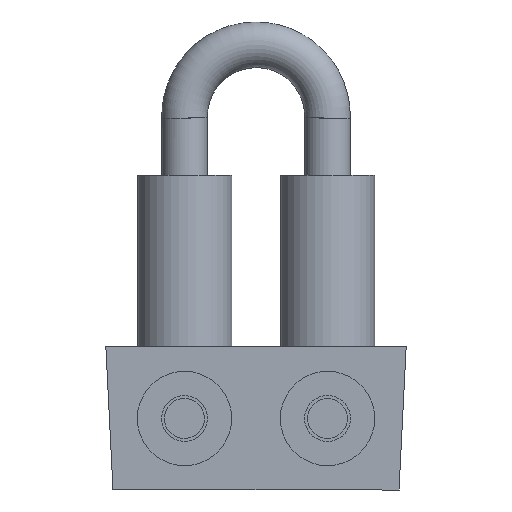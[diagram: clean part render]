
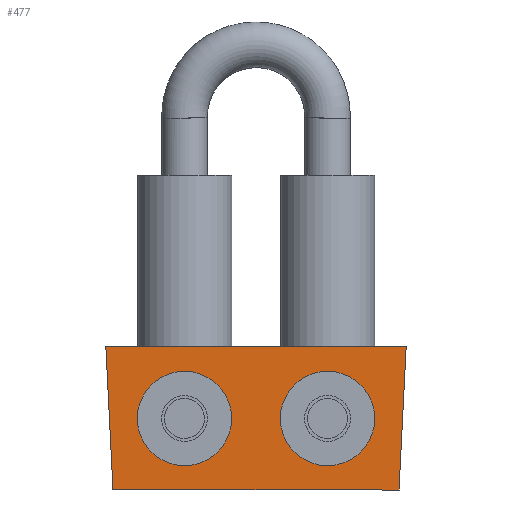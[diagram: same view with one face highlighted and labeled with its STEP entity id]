
A CAD part, front view. The second image highlights one B-rep face of the part: STEP entity #477.
In plain terms, the highlighted planar face has unit normal (0, -1, 0) as drawn and (0, 0, 1) by its records, which use the part's own axes.
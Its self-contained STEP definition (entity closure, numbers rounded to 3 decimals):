
#89=FACE_BOUND('',#180,.T.);
#90=FACE_BOUND('',#181,.T.);
#113=CIRCLE('',#621,8.);
#114=CIRCLE('',#622,8.);
#145=FACE_OUTER_BOUND('',#179,.T.);
#179=EDGE_LOOP('',(#369,#370,#371,#372));
#180=EDGE_LOOP('',(#373));
#181=EDGE_LOOP('',(#374));
#235=LINE('',#884,#247);
#240=LINE('',#894,#252);
#242=LINE('',#898,#254);
#244=LINE('',#901,#256);
#247=VECTOR('',#705,10.);
#252=VECTOR('',#714,10.);
#254=VECTOR('',#718,10.);
#256=VECTOR('',#722,10.);
#259=VERTEX_POINT('',#881);
#260=VERTEX_POINT('',#883);
#263=VERTEX_POINT('',#893);
#264=VERTEX_POINT('',#897);
#265=VERTEX_POINT('',#902);
#266=VERTEX_POINT('',#904);
#303=EDGE_CURVE('',#260,#259,#235,.T.);
#308=EDGE_CURVE('',#260,#263,#240,.T.);
#310=EDGE_CURVE('',#264,#263,#242,.T.);
#312=EDGE_CURVE('',#264,#259,#244,.T.);
#313=EDGE_CURVE('',#265,#265,#113,.T.);
#314=EDGE_CURVE('',#266,#266,#114,.T.);
#369=ORIENTED_EDGE('',*,*,#303,.T.);
#370=ORIENTED_EDGE('',*,*,#312,.F.);
#371=ORIENTED_EDGE('',*,*,#310,.T.);
#372=ORIENTED_EDGE('',*,*,#308,.F.);
#373=ORIENTED_EDGE('',*,*,#313,.T.);
#374=ORIENTED_EDGE('',*,*,#314,.T.);
#461=PLANE('',#620);
#477=ADVANCED_FACE('',(#145,#89,#90),#461,.T.);
#620=AXIS2_PLACEMENT_3D('',#900,#720,#721);
#621=AXIS2_PLACEMENT_3D('',#903,#723,#724);
#622=AXIS2_PLACEMENT_3D('',#905,#725,#726);
#705=DIRECTION('',(-0.999,0.05,0.));
#714=DIRECTION('',(0.,-1.,0.));
#718=DIRECTION('',(0.999,0.05,0.));
#720=DIRECTION('center_axis',(0.,0.,1.));
#721=DIRECTION('ref_axis',(0.,-1.,0.));
#722=DIRECTION('',(0.,1.,0.));
#723=DIRECTION('center_axis',(0.,0.,-1.));
#724=DIRECTION('ref_axis',(-1.,0.,0.));
#725=DIRECTION('center_axis',(0.,0.,-1.));
#726=DIRECTION('ref_axis',(-1.,0.,0.));
#881=CARTESIAN_POINT('',(0.,105.,0.));
#883=CARTESIAN_POINT('',(50.,102.5,0.));
#884=CARTESIAN_POINT('',(0.,105.,0.));
#893=CARTESIAN_POINT('',(50.,2.5,0.));
#894=CARTESIAN_POINT('',(50.,0.,0.));
#897=CARTESIAN_POINT('',(0.,0.,0.));
#898=CARTESIAN_POINT('',(2.618,0.131,0.));
#900=CARTESIAN_POINT('Origin',(0.,105.,0.));
#901=CARTESIAN_POINT('',(0.,0.,0.));
#902=CARTESIAN_POINT('',(33.,77.5,0.));
#903=CARTESIAN_POINT('Origin',(25.,77.5,0.));
#904=CARTESIAN_POINT('',(33.,27.5,0.));
#905=CARTESIAN_POINT('Origin',(25.,27.5,0.));
